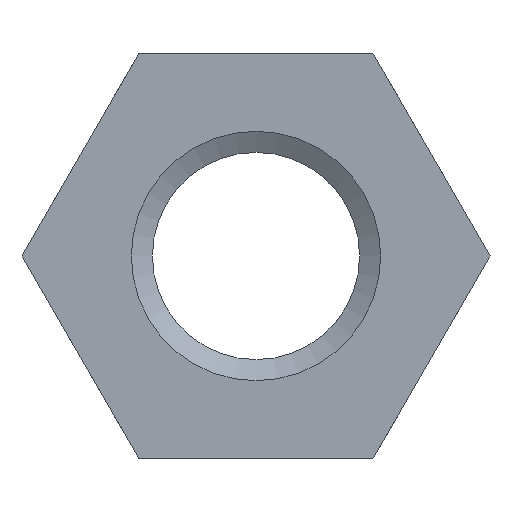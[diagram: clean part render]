
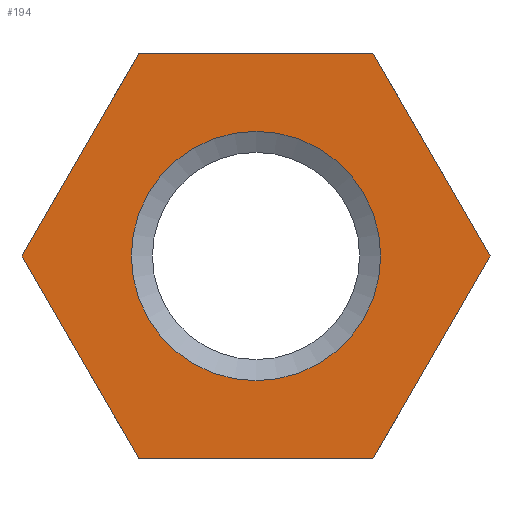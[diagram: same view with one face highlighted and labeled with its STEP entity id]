
A CAD part, left-side view. The second image highlights one B-rep face of the part: STEP entity #194.
In plain terms, the highlighted planar face has unit normal (-1, 0, 0).
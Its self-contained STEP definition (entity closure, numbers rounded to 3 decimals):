
#16=LINE('',#306,#28);
#18=LINE('',#310,#30);
#20=LINE('',#314,#32);
#22=LINE('',#318,#34);
#24=LINE('',#322,#36);
#26=LINE('',#325,#38);
#28=VECTOR('',#238,7.508);
#30=VECTOR('',#242,7.508);
#32=VECTOR('',#246,7.508);
#34=VECTOR('',#250,7.508);
#36=VECTOR('',#254,7.508);
#38=VECTOR('',#258,7.508);
#45=PLANE('',#213);
#52=FACE_BOUND('',#86,.T.);
#57=CIRCLE('',#204,4.);
#69=FACE_OUTER_BOUND('',#85,.T.);
#85=EDGE_LOOP('',(#172,#173,#174,#175,#176,#177));
#86=EDGE_LOOP('',(#178));
#104=VERTEX_POINT('',#297);
#106=VERTEX_POINT('',#303);
#107=VERTEX_POINT('',#305);
#108=VERTEX_POINT('',#309);
#109=VERTEX_POINT('',#313);
#110=VERTEX_POINT('',#317);
#111=VERTEX_POINT('',#321);
#121=EDGE_CURVE('',#104,#104,#57,.T.);
#124=EDGE_CURVE('',#107,#106,#16,.T.);
#126=EDGE_CURVE('',#108,#107,#18,.T.);
#128=EDGE_CURVE('',#109,#108,#20,.T.);
#130=EDGE_CURVE('',#110,#109,#22,.T.);
#132=EDGE_CURVE('',#111,#110,#24,.T.);
#134=EDGE_CURVE('',#106,#111,#26,.T.);
#172=ORIENTED_EDGE('',*,*,#128,.T.);
#173=ORIENTED_EDGE('',*,*,#126,.T.);
#174=ORIENTED_EDGE('',*,*,#124,.T.);
#175=ORIENTED_EDGE('',*,*,#134,.T.);
#176=ORIENTED_EDGE('',*,*,#132,.T.);
#177=ORIENTED_EDGE('',*,*,#130,.T.);
#178=ORIENTED_EDGE('',*,*,#121,.T.);
#194=ADVANCED_FACE('',(#69,#52),#45,.T.);
#204=AXIS2_PLACEMENT_3D('',#298,#229,#230);
#213=AXIS2_PLACEMENT_3D('',#326,#259,#260);
#229=DIRECTION('center_axis',(1.,0.,0.));
#230=DIRECTION('ref_axis',(0.,1.,0.));
#238=DIRECTION('',(0.,-0.5,-0.866));
#242=DIRECTION('',(0.,0.5,-0.866));
#246=DIRECTION('',(0.,1.,0.));
#250=DIRECTION('',(0.,0.5,0.866));
#254=DIRECTION('',(0.,-0.5,0.866));
#258=DIRECTION('',(0.,-1.,0.));
#259=DIRECTION('center_axis',(-1.,0.,0.));
#260=DIRECTION('ref_axis',(0.,-1.,0.));
#297=CARTESIAN_POINT('',(-3.196,-1.469,4.));
#298=CARTESIAN_POINT('Origin',(-3.196,-1.469,0.));
#303=CARTESIAN_POINT('',(-3.196,2.284,-6.502));
#305=CARTESIAN_POINT('',(-3.196,6.038,0.));
#306=CARTESIAN_POINT('',(-3.196,6.038,0.));
#309=CARTESIAN_POINT('',(-3.196,2.284,6.502));
#310=CARTESIAN_POINT('',(-3.196,2.284,6.502));
#313=CARTESIAN_POINT('',(-3.196,-5.223,6.502));
#314=CARTESIAN_POINT('',(-3.196,-5.223,6.502));
#317=CARTESIAN_POINT('',(-3.196,-8.977,0.));
#318=CARTESIAN_POINT('',(-3.196,-8.977,0.));
#321=CARTESIAN_POINT('',(-3.196,-5.223,-6.502));
#322=CARTESIAN_POINT('',(-3.196,-5.223,-6.502));
#325=CARTESIAN_POINT('',(-3.196,2.284,-6.502));
#326=CARTESIAN_POINT('Origin',(-3.196,-1.469,5.415));
